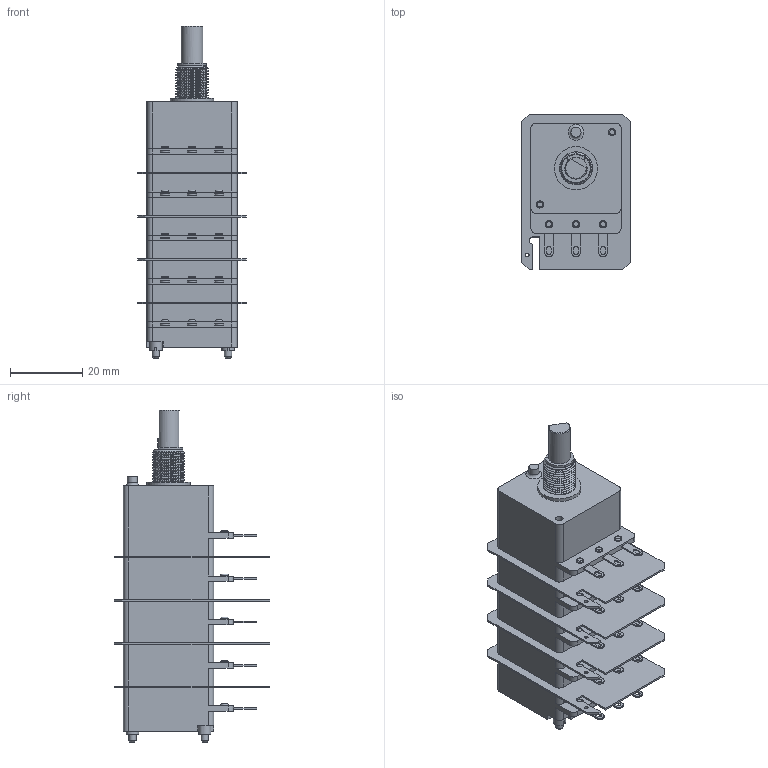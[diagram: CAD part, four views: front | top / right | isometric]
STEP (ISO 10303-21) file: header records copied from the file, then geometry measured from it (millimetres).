
FILE_DESCRIPTION(('FreeCAD Model'),'2;1');
FILE_NAME('Open CASCADE Shape Model','2026-07-15T09:57:32',(''),(''), 'Open CASCADE STEP processor 7.8','FreeCAD','Unknown');
FILE_SCHEMA(('AUTOMOTIVE_DESIGN { 1 0 10303 214 1 1 1 1 }'));
Length unit declared in the file: millimetre
Products named in the file (1): 5CP25XX-S-6F20
Bounding box: 30 x 43 x 92 mm (x, y, z)
Volume: 45103.5 mm3; surface area: 18677.5 mm2
Topology: 1 solids, 38 shells, 595 faces, 1362 edges, 899 vertices
Faces by surface type: plane 341, cylinder 192, bspline 38, torus 18, cone 6
Full cylindrical faces by diameter (mm): 1 x4, 1.9 x2, 2 x39, 2.2 x26, 2.5 x4, 2.8 x1, 3.5 x2, 4.4 x1, 4.5 x5, 5.4 x1, 6 x1, 6.05 x1, 8 x1, 9 x4, 12 x1
Entity records: 22438 total; most frequent: CARTESIAN_POINT 7211, DIRECTION 2863, ORIENTED_EDGE 2722, EDGE_CURVE 1361, AXIS2_PLACEMENT_3D 1056, VERTEX_POINT 899, LINE 751, VECTOR 751
